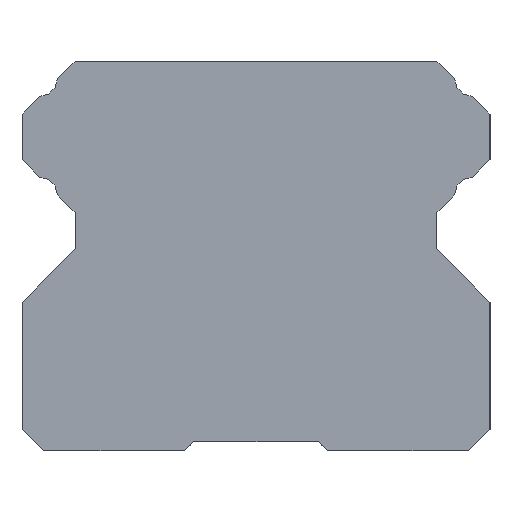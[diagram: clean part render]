
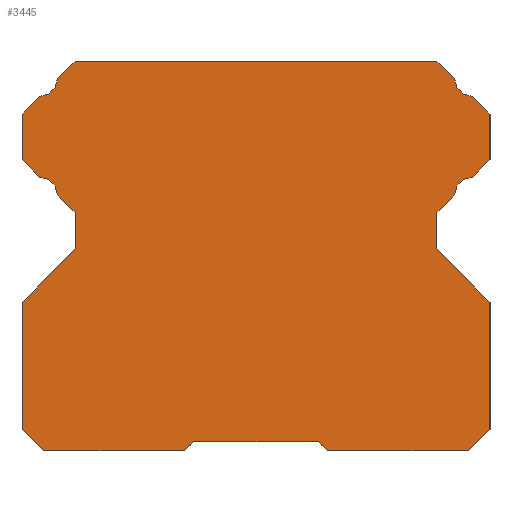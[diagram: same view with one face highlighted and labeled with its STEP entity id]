
A CAD part, left-side view. The second image highlights one B-rep face of the part: STEP entity #3445.
In plain terms, the highlighted planar face has unit normal (-1, 0, 0).
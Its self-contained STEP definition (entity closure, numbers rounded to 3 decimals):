
#1007 = VERTEX_POINT('',#1008);
#1008 = CARTESIAN_POINT('',(-20.,-2.3,0.));
#1014 = EDGE_CURVE('',#1015,#1007,#1017,.T.);
#1015 = VERTEX_POINT('',#1016);
#1016 = CARTESIAN_POINT('',(-20.,-2.,0.3));
#1017 = LINE('',#1018,#1019);
#1018 = CARTESIAN_POINT('',(-20.,-0.401,1.899));
#1019 = VECTOR('',#1020,1.);
#1020 = DIRECTION('',(0.,-0.707,
    -0.707));
#1460 = VERTEX_POINT('',#1461);
#1461 = CARTESIAN_POINT('',(-20.,2.,0.3));
#1467 = EDGE_CURVE('',#1468,#1460,#1470,.T.);
#1468 = VERTEX_POINT('',#1469);
#1469 = CARTESIAN_POINT('',(-20.,2.3,0.));
#1470 = LINE('',#1471,#1472);
#1471 = CARTESIAN_POINT('',(-20.,-7.099,9.399));
#1472 = VECTOR('',#1473,1.);
#1473 = DIRECTION('',(0.,-0.707,0.707)
  );
#3434 = EDGE_CURVE('',#1015,#1460,#3435,.T.);
#3435 = LINE('',#3436,#3437);
#3436 = CARTESIAN_POINT('',(-20.,-8.5,0.3));
#3437 = VECTOR('',#3438,1.);
#3438 = DIRECTION('',(0.,1.,0.));
#3445 = ADVANCED_FACE('',(#3446),#3653,.F.);
#3446 = FACE_BOUND('',#3447,.F.);
#3447 = EDGE_LOOP('',(#3448,#3449,#3450,#3451,#3459,#3467,#3475,#3483,
    #3491,#3499,#3508,#3516,#3524,#3532,#3541,#3549,#3557,#3565,#3574,
    #3582,#3590,#3598,#3607,#3615,#3623,#3631,#3639,#3647));
#3448 = ORIENTED_EDGE('',*,*,#1014,.F.);
#3449 = ORIENTED_EDGE('',*,*,#3434,.T.);
#3450 = ORIENTED_EDGE('',*,*,#1467,.F.);
#3451 = ORIENTED_EDGE('',*,*,#3452,.F.);
#3452 = EDGE_CURVE('',#3453,#1468,#3455,.T.);
#3453 = VERTEX_POINT('',#3454);
#3454 = CARTESIAN_POINT('',(-20.,6.8,0.));
#3455 = LINE('',#3456,#3457);
#3456 = CARTESIAN_POINT('',(-20.,-5.225,0.));
#3457 = VECTOR('',#3458,1.);
#3458 = DIRECTION('',(0.,-1.,0.));
#3459 = ORIENTED_EDGE('',*,*,#3460,.F.);
#3460 = EDGE_CURVE('',#3461,#3453,#3463,.T.);
#3461 = VERTEX_POINT('',#3462);
#3462 = CARTESIAN_POINT('',(-20.,7.5,0.7));
#3463 = LINE('',#3464,#3465);
#3464 = CARTESIAN_POINT('',(-20.,6.525,-0.275));
#3465 = VECTOR('',#3466,1.);
#3466 = DIRECTION('',(0.,-0.707,
    -0.707));
#3467 = ORIENTED_EDGE('',*,*,#3468,.F.);
#3468 = EDGE_CURVE('',#3469,#3461,#3471,.T.);
#3469 = VERTEX_POINT('',#3470);
#3470 = CARTESIAN_POINT('',(-20.,7.5,4.775));
#3471 = LINE('',#3472,#3473);
#3472 = CARTESIAN_POINT('',(-20.,7.5,11.369));
#3473 = VECTOR('',#3474,1.);
#3474 = DIRECTION('',(0.,0.,-1.));
#3475 = ORIENTED_EDGE('',*,*,#3476,.F.);
#3476 = EDGE_CURVE('',#3477,#3469,#3479,.T.);
#3477 = VERTEX_POINT('',#3478);
#3478 = CARTESIAN_POINT('',(-20.,5.799,6.476));
#3479 = LINE('',#3480,#3481);
#3480 = CARTESIAN_POINT('',(-20.,-2.357,14.632));
#3481 = VECTOR('',#3482,1.);
#3482 = DIRECTION('',(0.,0.707,-0.707
    ));
#3483 = ORIENTED_EDGE('',*,*,#3484,.F.);
#3484 = EDGE_CURVE('',#3485,#3477,#3487,.T.);
#3485 = VERTEX_POINT('',#3486);
#3486 = CARTESIAN_POINT('',(-20.,5.799,7.64));
#3487 = LINE('',#3488,#3489);
#3488 = CARTESIAN_POINT('',(-20.,5.799,13.529));
#3489 = VECTOR('',#3490,1.);
#3490 = DIRECTION('',(0.,0.,-1.));
#3491 = ORIENTED_EDGE('',*,*,#3492,.F.);
#3492 = EDGE_CURVE('',#3493,#3485,#3495,.T.);
#3493 = VERTEX_POINT('',#3494);
#3494 = CARTESIAN_POINT('',(-20.,6.366,8.207));
#3495 = LINE('',#3496,#3497);
#3496 = CARTESIAN_POINT('',(-20.,3.831,5.672));
#3497 = VECTOR('',#3498,1.);
#3498 = DIRECTION('',(0.,-0.707,
    -0.707));
#3499 = ORIENTED_EDGE('',*,*,#3500,.F.);
#3500 = EDGE_CURVE('',#3501,#3493,#3503,.T.);
#3501 = VERTEX_POINT('',#3502);
#3502 = CARTESIAN_POINT('',(-20.,6.933,8.774));
#3503 = CIRCLE('',#3504,0.558);
#3504 = AXIS2_PLACEMENT_3D('',#3505,#3506,#3507);
#3505 = CARTESIAN_POINT('',(-20.,6.924,8.216));
#3506 = DIRECTION('',(1.,0.,-0.));
#3507 = DIRECTION('',(0.,1.,0.));
#3508 = ORIENTED_EDGE('',*,*,#3509,.F.);
#3509 = EDGE_CURVE('',#3510,#3501,#3512,.T.);
#3510 = VERTEX_POINT('',#3511);
#3511 = CARTESIAN_POINT('',(-20.,7.5,9.341));
#3512 = LINE('',#3513,#3514);
#3513 = CARTESIAN_POINT('',(-20.,4.398,6.239));
#3514 = VECTOR('',#3515,1.);
#3515 = DIRECTION('',(0.,-0.707,
    -0.707));
#3516 = ORIENTED_EDGE('',*,*,#3517,.F.);
#3517 = EDGE_CURVE('',#3518,#3510,#3520,.T.);
#3518 = VERTEX_POINT('',#3519);
#3519 = CARTESIAN_POINT('',(-20.,7.5,10.799));
#3520 = LINE('',#3521,#3522);
#3521 = CARTESIAN_POINT('',(-20.,7.5,15.035));
#3522 = VECTOR('',#3523,1.);
#3523 = DIRECTION('',(0.,0.,-1.));
#3524 = ORIENTED_EDGE('',*,*,#3525,.F.);
#3525 = EDGE_CURVE('',#3526,#3518,#3528,.T.);
#3526 = VERTEX_POINT('',#3527);
#3527 = CARTESIAN_POINT('',(-20.,6.933,11.366));
#3528 = LINE('',#3529,#3530);
#3529 = CARTESIAN_POINT('',(-20.,-0.567,18.866));
#3530 = VECTOR('',#3531,1.);
#3531 = DIRECTION('',(0.,0.707,-0.707
    ));
#3532 = ORIENTED_EDGE('',*,*,#3533,.F.);
#3533 = EDGE_CURVE('',#3534,#3526,#3536,.T.);
#3534 = VERTEX_POINT('',#3535);
#3535 = CARTESIAN_POINT('',(-20.,6.366,11.933));
#3536 = CIRCLE('',#3537,0.558);
#3537 = AXIS2_PLACEMENT_3D('',#3538,#3539,#3540);
#3538 = CARTESIAN_POINT('',(-20.,6.924,11.924));
#3539 = DIRECTION('',(1.,0.,-0.));
#3540 = DIRECTION('',(0.,1.,0.));
#3541 = ORIENTED_EDGE('',*,*,#3542,.F.);
#3542 = EDGE_CURVE('',#3543,#3534,#3545,.T.);
#3543 = VERTEX_POINT('',#3544);
#3544 = CARTESIAN_POINT('',(-20.,5.799,12.5));
#3545 = LINE('',#3546,#3547);
#3546 = CARTESIAN_POINT('',(-20.,-1.134,19.433));
#3547 = VECTOR('',#3548,1.);
#3548 = DIRECTION('',(0.,0.707,-0.707
    ));
#3549 = ORIENTED_EDGE('',*,*,#3550,.F.);
#3550 = EDGE_CURVE('',#3551,#3543,#3553,.T.);
#3551 = VERTEX_POINT('',#3552);
#3552 = CARTESIAN_POINT('',(-20.,-5.799,12.5));
#3553 = LINE('',#3554,#3555);
#3554 = CARTESIAN_POINT('',(-20.,-7.5,12.5));
#3555 = VECTOR('',#3556,1.);
#3556 = DIRECTION('',(0.,1.,0.));
#3557 = ORIENTED_EDGE('',*,*,#3558,.F.);
#3558 = EDGE_CURVE('',#3559,#3551,#3561,.T.);
#3559 = VERTEX_POINT('',#3560);
#3560 = CARTESIAN_POINT('',(-20.,-6.366,11.933));
#3561 = LINE('',#3562,#3563);
#3562 = CARTESIAN_POINT('',(-20.,-6.366,11.933));
#3563 = VECTOR('',#3564,1.);
#3564 = DIRECTION('',(0.,0.707,0.707)
  );
#3565 = ORIENTED_EDGE('',*,*,#3566,.F.);
#3566 = EDGE_CURVE('',#3567,#3559,#3569,.T.);
#3567 = VERTEX_POINT('',#3568);
#3568 = CARTESIAN_POINT('',(-20.,-6.933,11.366));
#3569 = CIRCLE('',#3570,0.558);
#3570 = AXIS2_PLACEMENT_3D('',#3571,#3572,#3573);
#3571 = CARTESIAN_POINT('',(-20.,-6.924,11.924));
#3572 = DIRECTION('',(1.,0.,-0.));
#3573 = DIRECTION('',(0.,1.,0.));
#3574 = ORIENTED_EDGE('',*,*,#3575,.F.);
#3575 = EDGE_CURVE('',#3576,#3567,#3578,.T.);
#3576 = VERTEX_POINT('',#3577);
#3577 = CARTESIAN_POINT('',(-20.,-7.5,10.799));
#3578 = LINE('',#3579,#3580);
#3579 = CARTESIAN_POINT('',(-20.,-6.933,11.366));
#3580 = VECTOR('',#3581,1.);
#3581 = DIRECTION('',(0.,0.707,0.707)
  );
#3582 = ORIENTED_EDGE('',*,*,#3583,.F.);
#3583 = EDGE_CURVE('',#3584,#3576,#3586,.T.);
#3584 = VERTEX_POINT('',#3585);
#3585 = CARTESIAN_POINT('',(-20.,-7.5,9.341));
#3586 = LINE('',#3587,#3588);
#3587 = CARTESIAN_POINT('',(-20.,-7.5,15.035));
#3588 = VECTOR('',#3589,1.);
#3589 = DIRECTION('',(0.,0.,1.));
#3590 = ORIENTED_EDGE('',*,*,#3591,.F.);
#3591 = EDGE_CURVE('',#3592,#3584,#3594,.T.);
#3592 = VERTEX_POINT('',#3593);
#3593 = CARTESIAN_POINT('',(-20.,-6.933,8.774));
#3594 = LINE('',#3595,#3596);
#3595 = CARTESIAN_POINT('',(-20.,-11.898,13.739));
#3596 = VECTOR('',#3597,1.);
#3597 = DIRECTION('',(0.,-0.707,0.707)
  );
#3598 = ORIENTED_EDGE('',*,*,#3599,.F.);
#3599 = EDGE_CURVE('',#3600,#3592,#3602,.T.);
#3600 = VERTEX_POINT('',#3601);
#3601 = CARTESIAN_POINT('',(-20.,-6.366,8.207));
#3602 = CIRCLE('',#3603,0.558);
#3603 = AXIS2_PLACEMENT_3D('',#3604,#3605,#3606);
#3604 = CARTESIAN_POINT('',(-20.,-6.924,8.216));
#3605 = DIRECTION('',(1.,-0.,0.));
#3606 = DIRECTION('',(0.,1.,0.));
#3607 = ORIENTED_EDGE('',*,*,#3608,.F.);
#3608 = EDGE_CURVE('',#3609,#3600,#3611,.T.);
#3609 = VERTEX_POINT('',#3610);
#3610 = CARTESIAN_POINT('',(-20.,-5.799,7.64));
#3611 = LINE('',#3612,#3613);
#3612 = CARTESIAN_POINT('',(-20.,-11.331,13.172));
#3613 = VECTOR('',#3614,1.);
#3614 = DIRECTION('',(0.,-0.707,0.707)
  );
#3615 = ORIENTED_EDGE('',*,*,#3616,.F.);
#3616 = EDGE_CURVE('',#3617,#3609,#3619,.T.);
#3617 = VERTEX_POINT('',#3618);
#3618 = CARTESIAN_POINT('',(-20.,-5.799,6.476));
#3619 = LINE('',#3620,#3621);
#3620 = CARTESIAN_POINT('',(-20.,-5.799,13.529));
#3621 = VECTOR('',#3622,1.);
#3622 = DIRECTION('',(0.,0.,1.));
#3623 = ORIENTED_EDGE('',*,*,#3624,.F.);
#3624 = EDGE_CURVE('',#3625,#3617,#3627,.T.);
#3625 = VERTEX_POINT('',#3626);
#3626 = CARTESIAN_POINT('',(-20.,-7.5,4.775));
#3627 = LINE('',#3628,#3629);
#3628 = CARTESIAN_POINT('',(-20.,-5.144,7.132));
#3629 = VECTOR('',#3630,1.);
#3630 = DIRECTION('',(0.,0.707,0.707)
  );
#3631 = ORIENTED_EDGE('',*,*,#3632,.F.);
#3632 = EDGE_CURVE('',#3633,#3625,#3635,.T.);
#3633 = VERTEX_POINT('',#3634);
#3634 = CARTESIAN_POINT('',(-20.,-7.5,0.7));
#3635 = LINE('',#3636,#3637);
#3636 = CARTESIAN_POINT('',(-20.,-7.5,11.369));
#3637 = VECTOR('',#3638,1.);
#3638 = DIRECTION('',(0.,0.,1.));
#3639 = ORIENTED_EDGE('',*,*,#3640,.F.);
#3640 = EDGE_CURVE('',#3641,#3633,#3643,.T.);
#3641 = VERTEX_POINT('',#3642);
#3642 = CARTESIAN_POINT('',(-20.,-6.8,0.));
#3643 = LINE('',#3644,#3645);
#3644 = CARTESIAN_POINT('',(-20.,-14.025,7.225));
#3645 = VECTOR('',#3646,1.);
#3646 = DIRECTION('',(0.,-0.707,0.707)
  );
#3647 = ORIENTED_EDGE('',*,*,#3648,.F.);
#3648 = EDGE_CURVE('',#1007,#3641,#3649,.T.);
#3649 = LINE('',#3650,#3651);
#3650 = CARTESIAN_POINT('',(-20.,-9.775,0.));
#3651 = VECTOR('',#3652,1.);
#3652 = DIRECTION('',(0.,-1.,0.));
#3653 = PLANE('',#3654);
#3654 = AXIS2_PLACEMENT_3D('',#3655,#3656,#3657);
#3655 = CARTESIAN_POINT('',(-20.,-15.,20.));
#3656 = DIRECTION('',(1.,0.,0.));
#3657 = DIRECTION('',(0.,0.,-1.));
